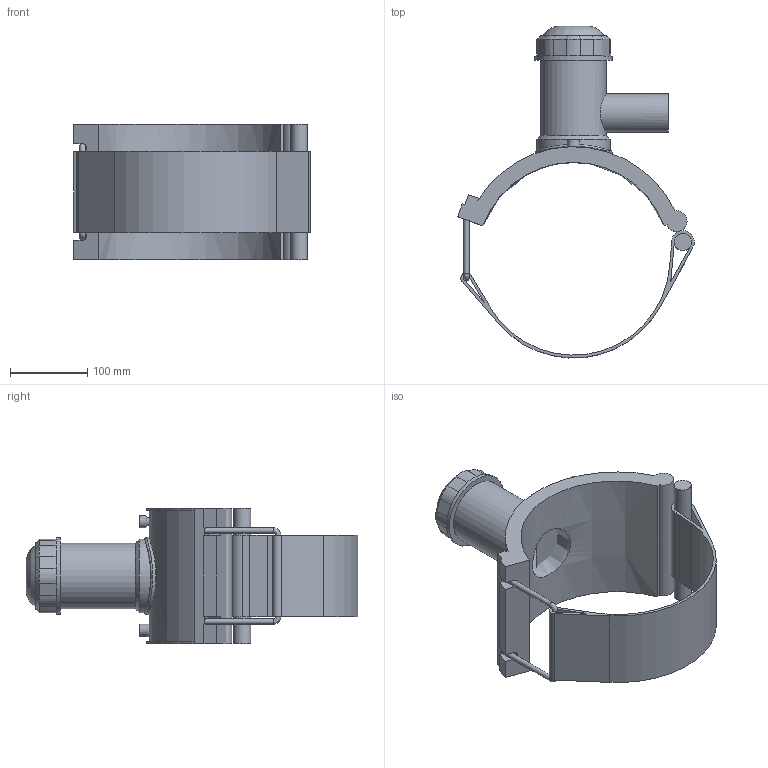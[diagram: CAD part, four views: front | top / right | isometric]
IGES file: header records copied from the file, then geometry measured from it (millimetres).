
Global section: file name: 496304250050.ipt; native system: Autodesk Inventor 2015; preprocessor: unknown; author: KIM; date: 20190124.131257; units: millimetre
Bounding box: 307.08 x 430.55 x 176 mm (x, y, z)
Volume: 1980363.5 mm3; surface area: 387669 mm2
Topology: 2 solids, 2 shells, 121 faces, 301 edges, 191 vertices
Faces by surface type: plane 68, cylinder 29, revolution 12, cone 11, bspline 1
Full cylindrical faces by diameter (mm): 4 x2, 7 x2, 22.115 x1, 50 x1, 85 x1, 95 x1, 100 x2
